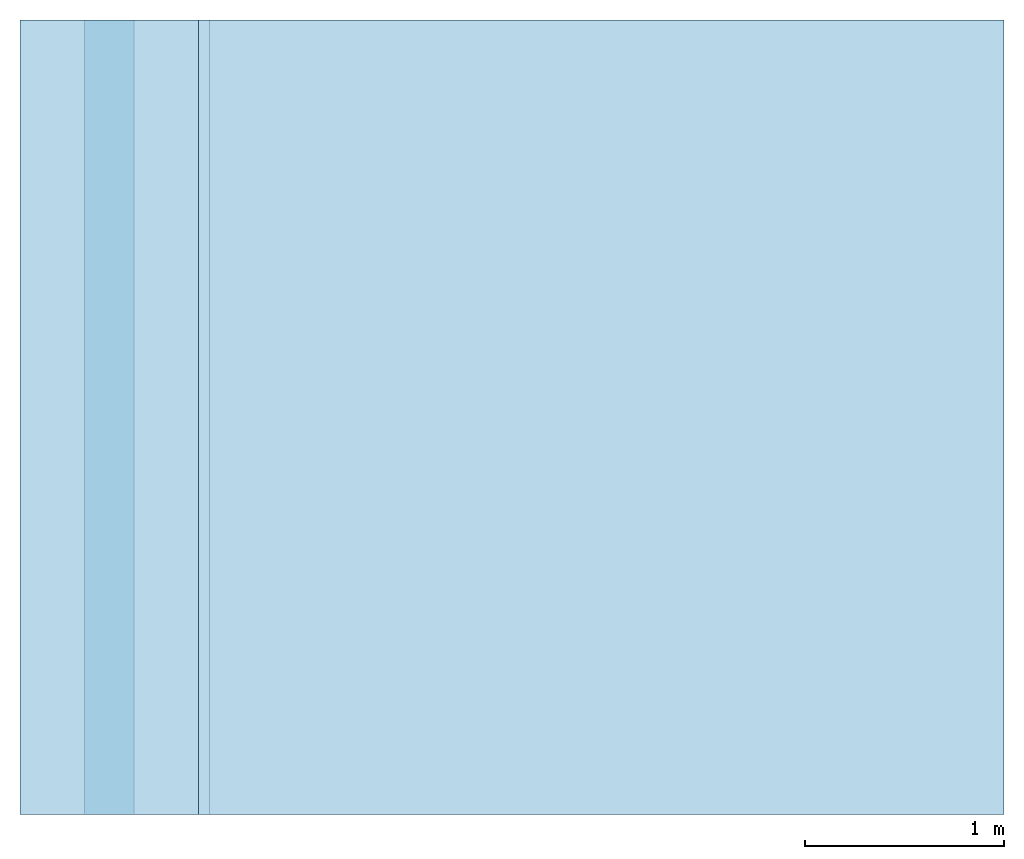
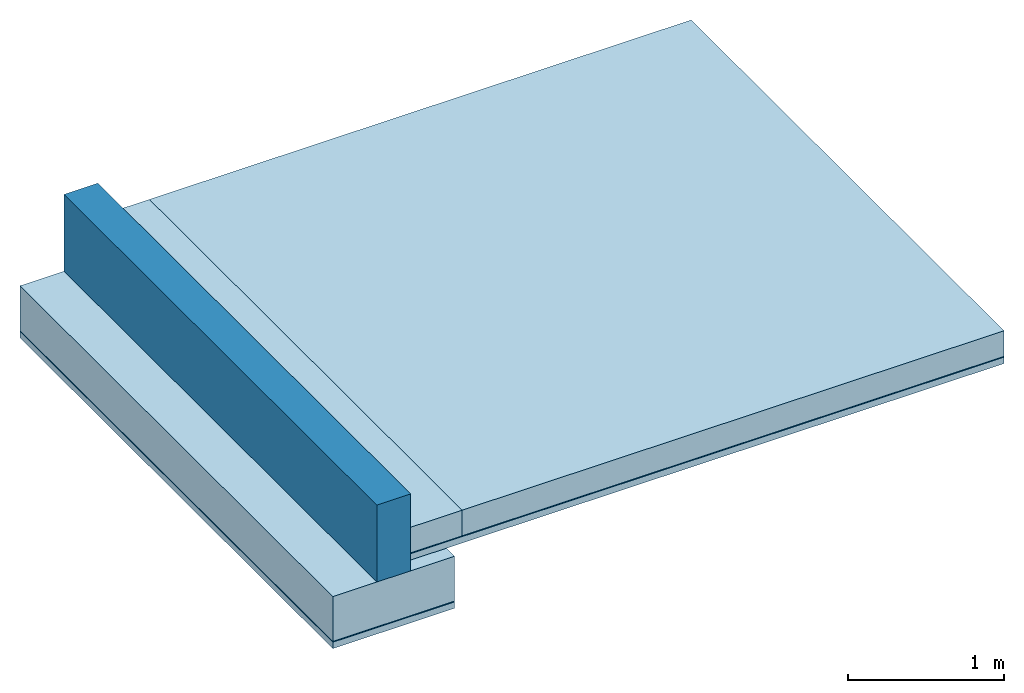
# One storey: 10 slabs, 1 footing, 1 wall.
"""IFC2X3 building model written with IfcOpenShell, lengths in millimetres."""

from ifc_helpers import new_model, entity, si_unit, converted_unit, derived_unit, direction, frame, frame_2d, origin, origin_2d_with_axis, place, context, subcontext, project, spatial, rectangle, extrude, material, layer, layer_set, layer_usage, type_object, element, save


model = new_model("IFC2X3")

# Units and contexts
model_context = context("Model", 3, precision=0.01, world=origin(), true_north=direction((6.12303176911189e-17, 1.0)))
body_context = subcontext(model_context, "Body", "Model", "MODEL_VIEW")
ifc_project = project(units=[si_unit("LENGTHUNIT", "METRE", prefix="MILLI"), si_unit("AREAUNIT", "SQUARE_METRE"), si_unit("VOLUMEUNIT", "CUBIC_METRE"), converted_unit("PLANEANGLEUNIT", "DEGREE", entity("IfcRatioMeasure", 0.0174532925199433), si_unit("PLANEANGLEUNIT", "RADIAN"), dimensions=[0, 0, 0, 0, 0, 0, 0]), si_unit("MASSUNIT", "GRAM", prefix="KILO"), derived_unit("MASSDENSITYUNIT", [(si_unit("MASSUNIT", "GRAM", prefix="KILO"), 1), (si_unit("LENGTHUNIT", "METRE"), -3)]), si_unit("TIMEUNIT", "SECOND"), si_unit("FREQUENCYUNIT", "HERTZ"), si_unit("THERMODYNAMICTEMPERATUREUNIT", "DEGREE_CELSIUS"), derived_unit("THERMALTRANSMITTANCEUNIT", [(si_unit("MASSUNIT", "GRAM", prefix="KILO"), 1), (si_unit("THERMODYNAMICTEMPERATUREUNIT", "KELVIN"), -1), (si_unit("TIMEUNIT", "SECOND"), -3)]), derived_unit("VOLUMETRICFLOWRATEUNIT", [(si_unit("LENGTHUNIT", "METRE"), 3), (si_unit("TIMEUNIT", "SECOND"), -1)]), si_unit("ELECTRICCURRENTUNIT", "AMPERE"), si_unit("ELECTRICVOLTAGEUNIT", "VOLT"), si_unit("POWERUNIT", "WATT"), si_unit("FORCEUNIT", "NEWTON", prefix="KILO"), si_unit("ILLUMINANCEUNIT", "LUX"), si_unit("LUMINOUSFLUXUNIT", "LUMEN"), si_unit("LUMINOUSINTENSITYUNIT", "CANDELA"), derived_unit("USERDEFINED", [(si_unit("MASSUNIT", "GRAM", prefix="KILO"), -1), (si_unit("LENGTHUNIT", "METRE"), -2), (si_unit("TIMEUNIT", "SECOND"), 3), (si_unit("LUMINOUSFLUXUNIT", "LUMEN"), 1)]), derived_unit("LINEARVELOCITYUNIT", [(si_unit("LENGTHUNIT", "METRE"), 1), (si_unit("TIMEUNIT", "SECOND"), -1)]), si_unit("PRESSUREUNIT", "PASCAL"), derived_unit("USERDEFINED", [(si_unit("LENGTHUNIT", "METRE"), -2), (si_unit("MASSUNIT", "GRAM", prefix="KILO"), 1), (si_unit("TIMEUNIT", "SECOND"), -2)])], contexts=[model_context])

# Site, building, storey
site_placement = place(None, origin())
site = spatial("IfcSite", under=ifc_project, at=site_placement, Name="Default", CompositionType="ELEMENT")
building_placement = place(site_placement, origin())
building = spatial("IfcBuilding", under=site, at=building_placement, CompositionType="ELEMENT")
storey_placement = place(building_placement, origin())
storey = spatial("IfcBuildingStorey", under=building, at=storey_placement, Name="Nivel 1", CompositionType="ELEMENT", Elevation=0.0)

# Footing
ifc_material_1 = material(Name="Placa")
footing_placement = place(storey_placement, origin())
element("IfcFooting", 1, at=footing_placement, inside=storey, material=ifc_material_1, Name="Cimentación de muro:ZapataCorrida", ObjectType="Cimentación de muro:ZapataCorrida", PredefinedType="STRIP_FOOTING", context=body_context, shape_type="SweptSolid", body=[
    extrude(rectangle(XDim=4000.0, YDim=900.0, at=frame_2d((1.13686837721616e-13, 5.40012479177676e-13), x_axis=(1.0, 0.0))), frame((-6604.95271651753, -1086.84289171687, -350.0), z_axis=(0.0, 0.0, 1.0), x_axis=(0.0, -1.0, 0.0)), (0.0, 0.0, 1.0), 350.0),
])

# Slabs
ifc_layer_1 = layer(ifc_material_1, 200.0)
ifc_layer_set_1 = layer_set([ifc_layer_1], Name="Suelo:Placa")
ifc_layer_usage_1 = layer_usage(ifc_layer_set_1, "AXIS3", "POSITIVE", 0.0)
slab_1_placement = place(storey_placement, origin())
element("IfcSlab", 2, at=slab_1_placement, inside=storey, material=ifc_layer_usage_1, Name="Suelo:Placa", ObjectType="Suelo:Placa", PredefinedType="FLOOR", context=body_context, shape_type="SweptSolid", body=[
    extrude(rectangle(XDim=4000.00000000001, YDim=380.0, at=origin_2d_with_axis()), frame((-6289.95271651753, -1086.84289171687, 340.0), z_axis=(0.0, 0.0, -1.0), x_axis=(0.0, 1.0, 0.0)), (0.0, 0.0, 1.0), 200.0),
])
ifc_material_2 = material(Name="IM_Polipropileno_Geotextil_GeofimPP12515")
slab_2_placement = place(storey_placement, origin())
element("IfcSlab", 3, at=slab_2_placement, inside=storey, material=ifc_material_2, Name="Pieza", context=body_context, shape_type="SweptSolid", body=[
    extrude(rectangle(XDim=899.999999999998, YDim=4000.0, at=frame_2d((-5.40012479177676e-13, 0.0), x_axis=(1.0, 0.0))), frame((-6604.95271651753, -1086.84289171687, -352.0), z_axis=(0.0, 0.0, 1.0), x_axis=(-1.0, 0.0, 0.0)), (0.0, 0.0, 1.0), 2.00000000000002),
])
ifc_material_3 = material(Name="IM_LaminaAsfaltica_Lamina_PolitaberCombi48 (LBM 48-FP)")
slab_3_placement = place(storey_placement, origin())
element("IfcSlab", 4, at=slab_3_placement, inside=storey, material=ifc_material_3, Name="Pieza", context=body_context, shape_type="SweptSolid", body=[
    extrude(rectangle(XDim=899.999999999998, YDim=4000.0, at=frame_2d((-5.40012479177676e-13, 0.0), x_axis=(1.0, 0.0))), frame((-6604.95271651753, -1086.84289171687, -354.0), z_axis=(0.0, 0.0, 1.0), x_axis=(-1.0, 0.0, 0.0)), (0.0, 0.0, 1.0), 1.99999999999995),
])
ifc_material_4 = material(Name="IM_EmulsionBituminosa_Bote_Supermul")
slab_4_placement = place(storey_placement, origin())
element("IfcSlab", 5, at=slab_4_placement, inside=storey, material=ifc_material_4, Name="Pieza", context=body_context, shape_type="SweptSolid", body=[
    extrude(rectangle(XDim=899.999999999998, YDim=4000.0, at=frame_2d((-5.40012479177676e-13, 0.0), x_axis=(1.0, 0.0))), frame((-6604.95271651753, -1086.84289171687, -356.0), z_axis=(0.0, 0.0, 1.0), x_axis=(-1.0, 0.0, 0.0)), (0.0, 0.0, 1.0), 2.00000000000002),
])
ifc_material_5 = material(Name="Hormigón de limpieza")
slab_5_placement = place(storey_placement, origin())
element("IfcSlab", 6, at=slab_5_placement, inside=storey, material=ifc_material_5, Name="Pieza", context=body_context, shape_type="SweptSolid", body=[
    extrude(rectangle(XDim=899.999999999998, YDim=4000.0, at=frame_2d((-5.40012479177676e-13, 0.0), x_axis=(1.0, 0.0))), frame((-6604.95271651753, -1086.84289171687, -406.0), z_axis=(0.0, 0.0, 1.0), x_axis=(-1.0, 0.0, 0.0)), (0.0, 0.0, 1.0), 50.0),
])
ifc_layer_usage_2 = layer_usage(ifc_layer_set_1, "AXIS3", "POSITIVE", 0.0)
slab_6_placement = place(storey_placement, origin())
element("IfcSlab", 7, at=slab_6_placement, inside=storey, material=ifc_layer_usage_2, Name="Suelo:Placa", ObjectType="Suelo:Placa", PredefinedType="FLOOR", context=body_context, shape_type="SweptSolid", body=[
    extrude(rectangle(XDim=4000.00000000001, YDim=4000.0, at=origin_2d_with_axis()), frame((-4099.95271651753, -1086.84289171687, 340.0), z_axis=(0.0, 0.0, -1.0), x_axis=(0.0, 1.0, 0.0)), (0.0, 0.0, 1.0), 200.0),
])
slab_7_placement = place(storey_placement, origin())
element("IfcSlab", 8, at=slab_7_placement, inside=storey, material=ifc_material_2, Name="Pieza", context=body_context, shape_type="SweptSolid", body=[
    extrude(rectangle(XDim=4380.0, YDim=4000.00000000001, at=origin_2d_with_axis()), frame((-4289.95271651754, -1086.84289171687, 138.0), z_axis=(0.0, 0.0, 1.0), x_axis=(-1.0, 0.0, 0.0)), (0.0, 0.0, 1.0), 2.0),
])
slab_8_placement = place(storey_placement, origin())
element("IfcSlab", 9, at=slab_8_placement, inside=storey, material=ifc_material_3, Name="Pieza", context=body_context, shape_type="SweptSolid", body=[
    extrude(rectangle(XDim=4380.0, YDim=4000.00000000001, at=origin_2d_with_axis()), frame((-4289.95271651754, -1086.84289171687, 136.0), z_axis=(0.0, 0.0, 1.0), x_axis=(-1.0, 0.0, 0.0)), (0.0, 0.0, 1.0), 2.0),
])
slab_9_placement = place(storey_placement, origin())
element("IfcSlab", 10, at=slab_9_placement, inside=storey, material=ifc_material_4, Name="Pieza", context=body_context, shape_type="SweptSolid", body=[
    extrude(rectangle(XDim=4380.0, YDim=4000.00000000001, at=origin_2d_with_axis()), frame((-4289.95271651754, -1086.84289171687, 134.0), z_axis=(0.0, 0.0, 1.0), x_axis=(-1.0, 0.0, 0.0)), (0.0, 0.0, 1.0), 2.0),
])
slab_10_placement = place(storey_placement, origin())
element("IfcSlab", 11, at=slab_10_placement, inside=storey, material=ifc_material_5, Name="Pieza", context=body_context, shape_type="SweptSolid", body=[
    extrude(rectangle(XDim=4380.0, YDim=4000.00000000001, at=origin_2d_with_axis()), frame((-4289.95271651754, -1086.84289171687, 84.0), z_axis=(0.0, 0.0, 1.0), x_axis=(-1.0, 0.0, 0.0)), (0.0, 0.0, 1.0), 50.0),
])

# Wall
ifc_material_6 = material(Name="Soporte resistente")
ifc_layer_2 = layer(ifc_material_6, 250.0)
ifc_layer_set_2 = layer_set([ifc_layer_2], Name="Muro básico:Muro")
ifc_layer_usage_3 = layer_usage(ifc_layer_set_2, "AXIS2", "POSITIVE", -125.0)
wall_type = type_object("IfcWallType", Name="Muro básico:Muro", PredefinedType="STANDARD", material=ifc_layer_set_2)
wall_placement = place(storey_placement, frame((-6604.95271651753, 913.157108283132, 0.0), z_axis=(0.0, 0.0, 1.0), x_axis=(0.0, -1.0, 0.0)))
element("IfcWallStandardCase", 12, at=wall_placement, inside=storey, type_object=wall_type, material=ifc_layer_usage_3, Name="Muro básico:Muro", ObjectType="Muro básico:Muro", context=body_context, shape_type="SweptSolid", body=[
    extrude(rectangle(XDim=4000.0, YDim=249.999999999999, at=frame_2d((2000.0, 0.0), x_axis=(-1.0, 0.0))), origin(), (0.0, 0.0, 1.0), 600.0),
])

save(model, "model.ifc")
